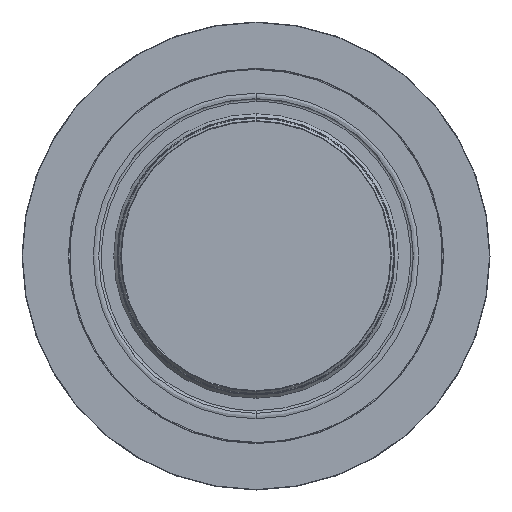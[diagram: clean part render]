
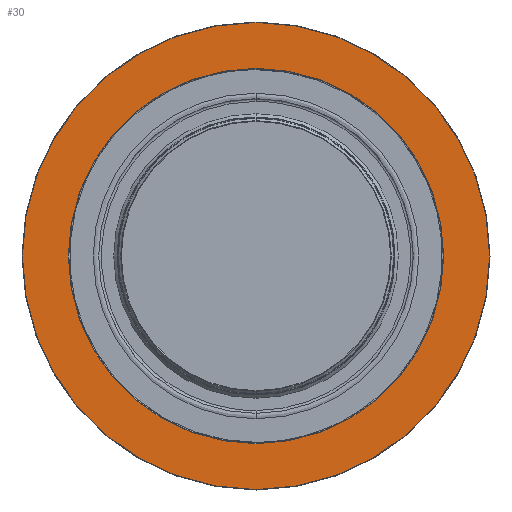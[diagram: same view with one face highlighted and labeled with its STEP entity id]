
A CAD part, front view. The second image highlights one B-rep face of the part: STEP entity #30.
In plain terms, the highlighted planar face has unit normal (0, -1, 0).
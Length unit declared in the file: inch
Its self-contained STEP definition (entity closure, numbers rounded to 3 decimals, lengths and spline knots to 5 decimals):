
#30 = ADVANCED_FACE ( 'NONE', ( #155, #170 ), #3110, .F. ) ;
#155 = FACE_OUTER_BOUND ( 'NONE', #3526, .T. ) ;
#170 = FACE_BOUND ( 'NONE', #3453, .T. ) ;
#299 = CIRCLE ( 'NONE', #431, 2.55406 ) ;
#377 = AXIS2_PLACEMENT_3D ( 'NONE', #3144, #3122, #3141 ) ;
#431 = AXIS2_PLACEMENT_3D ( 'NONE', #935, #936, #937 ) ;
#446 = AXIS2_PLACEMENT_3D ( 'NONE', #1107, #1108, #1109 ) ;
#935 = CARTESIAN_POINT ( 'NONE',  ( 0., 0., 0. ) ) ;
#936 = DIRECTION ( 'NONE',  ( 0., 1., 0. ) ) ;
#937 = DIRECTION ( 'NONE',  ( 0., 0., 1. ) ) ;
#1107 = CARTESIAN_POINT ( 'NONE',  ( 0., 0., 0. ) ) ;
#1108 = DIRECTION ( 'NONE',  ( 0., -1., 0. ) ) ;
#1109 = DIRECTION ( 'NONE',  ( 0., 0., -1. ) ) ;
#1287 = CIRCLE ( 'NONE', #446, 2.05224 ) ;
#1360 = CIRCLE ( 'NONE', #1813, 2.55406 ) ;
#1413 = CIRCLE ( 'NONE', #1840, 2.05224 ) ;
#1813 = AXIS2_PLACEMENT_3D ( 'NONE', #2102, #2103, #2104 ) ;
#1840 = AXIS2_PLACEMENT_3D ( 'NONE', #2330, #2331, #2332 ) ;
#2102 = CARTESIAN_POINT ( 'NONE',  ( 0., 0., 0. ) ) ;
#2103 = DIRECTION ( 'NONE',  ( 0., 1., 0. ) ) ;
#2104 = DIRECTION ( 'NONE',  ( 0., 0., 1. ) ) ;
#2330 = CARTESIAN_POINT ( 'NONE',  ( 0., 0., 0. ) ) ;
#2331 = DIRECTION ( 'NONE',  ( 0., -1., 0. ) ) ;
#2332 = DIRECTION ( 'NONE',  ( 0., 0., -1. ) ) ;
#2424 = CARTESIAN_POINT ( 'NONE',  ( 0., 0., 2.55406 ) ) ;
#2461 = CARTESIAN_POINT ( 'NONE',  ( 0., 0., 2.05224 ) ) ;
#2463 = CARTESIAN_POINT ( 'NONE',  ( 0., 0., -2.05224 ) ) ;
#2494 = CARTESIAN_POINT ( 'NONE',  ( 0., 0., -2.55406 ) ) ;
#3110 = PLANE ( 'NONE',  #377 ) ;
#3122 = DIRECTION ( 'NONE',  ( 0., 1., 0. ) ) ;
#3141 = DIRECTION ( 'NONE',  ( 0., 0., 1. ) ) ;
#3144 = CARTESIAN_POINT ( 'NONE',  ( 0., 0., 0. ) ) ;
#3147 = EDGE_CURVE ( 'NONE', #3433, #3347, #299, .T. ) ;
#3168 = EDGE_CURVE ( 'NONE', #3401, #3393, #1287, .T. ) ;
#3236 = EDGE_CURVE ( 'NONE', #3347, #3433, #1360, .T. ) ;
#3278 = EDGE_CURVE ( 'NONE', #3393, #3401, #1413, .T. ) ;
#3334 = ORIENTED_EDGE ( 'NONE', *, *, #3278, .F. ) ;
#3347 = VERTEX_POINT ( 'NONE', #2424 ) ;
#3365 = ORIENTED_EDGE ( 'NONE', *, *, #3236, .F. ) ;
#3376 = ORIENTED_EDGE ( 'NONE', *, *, #3168, .F. ) ;
#3389 = ORIENTED_EDGE ( 'NONE', *, *, #3147, .F. ) ;
#3393 = VERTEX_POINT ( 'NONE', #2461 ) ;
#3401 = VERTEX_POINT ( 'NONE', #2463 ) ;
#3433 = VERTEX_POINT ( 'NONE', #2494 ) ;
#3453 = EDGE_LOOP ( 'NONE', ( #3376, #3334 ) ) ;
#3526 = EDGE_LOOP ( 'NONE', ( #3365, #3389 ) ) ;
